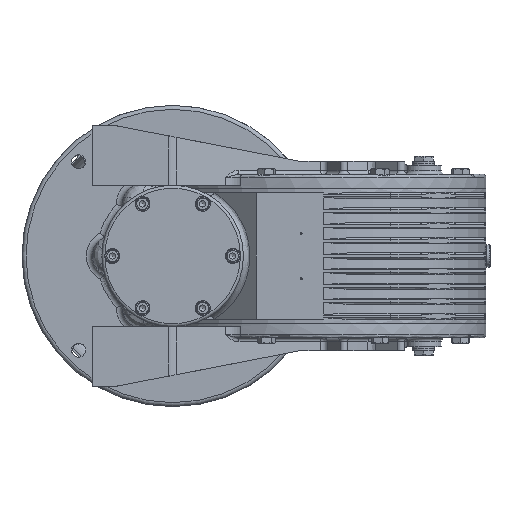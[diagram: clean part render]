
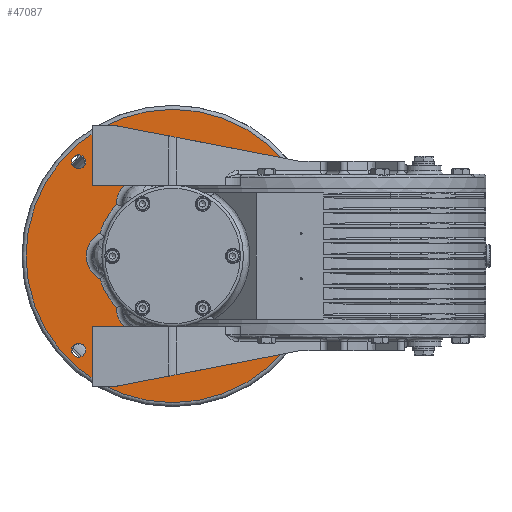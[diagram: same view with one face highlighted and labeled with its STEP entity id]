
A CAD part, left-side view. The second image highlights one B-rep face of the part: STEP entity #47087.
In plain terms, the highlighted planar face has unit normal (-1, 0, 0) as drawn and (1, 0, 0) by its records, which use the part's own axes.
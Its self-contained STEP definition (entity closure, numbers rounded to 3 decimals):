
#46913=CARTESIAN_POINT('',(15.0,146.0,0.));
#46914=VERTEX_POINT('',#46913);
#46915=CARTESIAN_POINT('',(15.0,0.0,0.0));
#46916=DIRECTION('',(-1.0,0.0,0.0));
#46917=DIRECTION('',(0.0,-1.0,0.0));
#46918=AXIS2_PLACEMENT_3D('',#46915,#46916,#46917);
#46919=CIRCLE('',#46918,146.0);
#46920=EDGE_CURVE('',#46914,#46914,#46919,.T.);
#46925=CARTESIAN_POINT('',(15.0,110.0,0.0));
#46926=DIRECTION('',(1.0,0.0,0.0));
#46927=DIRECTION('',(0.0,0.0,-1.0));
#46928=AXIS2_PLACEMENT_3D('',#46925,#46926,#46927);
#46929=PLANE('',#46928);
#46930=ORIENTED_EDGE('',*,*,#46920,.F.);
#46931=EDGE_LOOP('',(#46930));
#46932=FACE_OUTER_BOUND('',#46931,.T.);
#46933=CARTESIAN_POINT('',(15.0,16.506,74.186));
#46934=VERTEX_POINT('',#46933);
#46935=CARTESIAN_POINT('',(15.0,-16.506,74.186));
#46936=VERTEX_POINT('',#46935);
#46937=CARTESIAN_POINT('',(15.0,0.0,0.0));
#46938=DIRECTION('',(1.0,0.0,0.0));
#46939=DIRECTION('',(0.0,0.0,1.0));
#46940=AXIS2_PLACEMENT_3D('',#46937,#46938,#46939);
#46941=CIRCLE('',#46940,76.0);
#46942=EDGE_CURVE('',#46934,#46936,#46941,.T.);
#46943=ORIENTED_EDGE('',*,*,#46942,.F.);
#46944=CARTESIAN_POINT('',(15.0,55.994,51.388));
#46945=VERTEX_POINT('',#46944);
#46946=CARTESIAN_POINT('',(15.0,30.,51.962));
#46947=DIRECTION('',(1.0,0.0,0.0));
#46948=DIRECTION('',(0.0,0.5,0.866));
#46949=AXIS2_PLACEMENT_3D('',#46946,#46947,#46948);
#46950=CIRCLE('',#46949,26.);
#46951=EDGE_CURVE('',#46945,#46934,#46950,.T.);
#46952=ORIENTED_EDGE('',*,*,#46951,.F.);
#46953=CARTESIAN_POINT('',(15.0,72.5,22.798));
#46954=VERTEX_POINT('',#46953);
#46955=CARTESIAN_POINT('',(15.0,0.0,0.0));
#46956=DIRECTION('',(1.0,0.0,0.0));
#46957=DIRECTION('',(0.0,0.866,0.5));
#46958=AXIS2_PLACEMENT_3D('',#46955,#46956,#46957);
#46959=CIRCLE('',#46958,76.0);
#46960=EDGE_CURVE('',#46954,#46945,#46959,.T.);
#46961=ORIENTED_EDGE('',*,*,#46960,.F.);
#46962=CARTESIAN_POINT('',(15.0,72.5,-22.798));
#46963=VERTEX_POINT('',#46962);
#46964=CARTESIAN_POINT('',(15.0,60.0,0.));
#46965=DIRECTION('',(1.0,0.0,0.0));
#46966=DIRECTION('',(0.0,1.0,0.0));
#46967=AXIS2_PLACEMENT_3D('',#46964,#46965,#46966);
#46968=CIRCLE('',#46967,26.);
#46969=EDGE_CURVE('',#46963,#46954,#46968,.T.);
#46970=ORIENTED_EDGE('',*,*,#46969,.F.);
#46971=CARTESIAN_POINT('',(15.0,55.994,-51.388));
#46972=VERTEX_POINT('',#46971);
#46973=CARTESIAN_POINT('',(15.0,0.0,0.0));
#46974=DIRECTION('',(1.0,0.0,0.0));
#46975=DIRECTION('',(0.0,0.866,-0.5));
#46976=AXIS2_PLACEMENT_3D('',#46973,#46974,#46975);
#46977=CIRCLE('',#46976,76.);
#46978=EDGE_CURVE('',#46972,#46963,#46977,.T.);
#46979=ORIENTED_EDGE('',*,*,#46978,.F.);
#46980=CARTESIAN_POINT('',(15.0,16.506,-74.186));
#46981=VERTEX_POINT('',#46980);
#46982=CARTESIAN_POINT('',(15.0,30.,-51.962));
#46983=DIRECTION('',(1.0,0.0,0.0));
#46984=DIRECTION('',(0.0,0.5,-0.866));
#46985=AXIS2_PLACEMENT_3D('',#46982,#46983,#46984);
#46986=CIRCLE('',#46985,26.);
#46987=EDGE_CURVE('',#46981,#46972,#46986,.T.);
#46988=ORIENTED_EDGE('',*,*,#46987,.F.);
#46989=CARTESIAN_POINT('',(15.0,-16.506,-74.186));
#46990=VERTEX_POINT('',#46989);
#46991=CARTESIAN_POINT('',(15.0,0.0,0.0));
#46992=DIRECTION('',(1.0,0.0,0.0));
#46993=DIRECTION('',(0.0,0.0,-1.0));
#46994=AXIS2_PLACEMENT_3D('',#46991,#46992,#46993);
#46995=CIRCLE('',#46994,76.0);
#46996=EDGE_CURVE('',#46990,#46981,#46995,.T.);
#46997=ORIENTED_EDGE('',*,*,#46996,.F.);
#46998=CARTESIAN_POINT('',(15.0,-55.994,-51.388));
#46999=VERTEX_POINT('',#46998);
#47000=CARTESIAN_POINT('',(15.0,-30.,-51.962));
#47001=DIRECTION('',(1.0,0.0,0.0));
#47002=DIRECTION('',(0.0,-0.5,-0.866));
#47003=AXIS2_PLACEMENT_3D('',#47000,#47001,#47002);
#47004=CIRCLE('',#47003,26.0);
#47005=EDGE_CURVE('',#46999,#46990,#47004,.T.);
#47006=ORIENTED_EDGE('',*,*,#47005,.F.);
#47007=CARTESIAN_POINT('',(15.0,-72.5,-22.798));
#47008=VERTEX_POINT('',#47007);
#47009=CARTESIAN_POINT('',(15.0,0.0,0.0));
#47010=DIRECTION('',(1.0,0.0,0.0));
#47011=DIRECTION('',(0.0,-0.866,-0.5));
#47012=AXIS2_PLACEMENT_3D('',#47009,#47010,#47011);
#47013=CIRCLE('',#47012,76.);
#47014=EDGE_CURVE('',#47008,#46999,#47013,.T.);
#47015=ORIENTED_EDGE('',*,*,#47014,.F.);
#47016=CARTESIAN_POINT('',(15.0,-72.5,22.798));
#47017=VERTEX_POINT('',#47016);
#47018=CARTESIAN_POINT('',(15.0,-60.0,0.));
#47019=DIRECTION('',(1.0,0.0,0.0));
#47020=DIRECTION('',(0.0,-1.0,0.0));
#47021=AXIS2_PLACEMENT_3D('',#47018,#47019,#47020);
#47022=CIRCLE('',#47021,26.0);
#47023=EDGE_CURVE('',#47017,#47008,#47022,.T.);
#47024=ORIENTED_EDGE('',*,*,#47023,.F.);
#47025=CARTESIAN_POINT('',(15.0,-55.994,51.388));
#47026=VERTEX_POINT('',#47025);
#47027=CARTESIAN_POINT('',(15.0,0.0,0.0));
#47028=DIRECTION('',(1.0,0.0,0.0));
#47029=DIRECTION('',(0.0,-0.866,0.5));
#47030=AXIS2_PLACEMENT_3D('',#47027,#47028,#47029);
#47031=CIRCLE('',#47030,76.);
#47032=EDGE_CURVE('',#47026,#47017,#47031,.T.);
#47033=ORIENTED_EDGE('',*,*,#47032,.F.);
#47034=CARTESIAN_POINT('',(15.0,-30.,51.962));
#47035=DIRECTION('',(1.0,0.0,0.0));
#47036=DIRECTION('',(0.0,-0.5,0.866));
#47037=AXIS2_PLACEMENT_3D('',#47034,#47035,#47036);
#47038=CIRCLE('',#47037,26.);
#47039=EDGE_CURVE('',#46936,#47026,#47038,.T.);
#47040=ORIENTED_EDGE('',*,*,#47039,.F.);
#47041=EDGE_LOOP('',(#46943,#46952,#46961,#46970,#46979,#46988,#46997,#47006,#47015,#47024,#47033,#47040));
#47042=FACE_BOUND('',#47041,.T.);
#47043=CARTESIAN_POINT('',(15.0,93.692,86.692));
#47044=VERTEX_POINT('',#47043);
#47045=CARTESIAN_POINT('',(15.0,93.692,93.692));
#47046=DIRECTION('',(-1.0,0.0,0.0));
#47047=DIRECTION('',(0.0,0.0,1.0));
#47048=AXIS2_PLACEMENT_3D('',#47045,#47046,#47047);
#47049=CIRCLE('',#47048,7.);
#47050=EDGE_CURVE('',#47044,#47044,#47049,.T.);
#47051=ORIENTED_EDGE('',*,*,#47050,.T.);
#47052=EDGE_LOOP('',(#47051));
#47053=FACE_BOUND('',#47052,.T.);
#47054=CARTESIAN_POINT('',(15.0,-86.692,93.692));
#47055=VERTEX_POINT('',#47054);
#47056=CARTESIAN_POINT('',(15.0,-93.692,93.692));
#47057=DIRECTION('',(-1.0,0.0,0.0));
#47058=DIRECTION('',(0.0,-1.0,0.0));
#47059=AXIS2_PLACEMENT_3D('',#47056,#47057,#47058);
#47060=CIRCLE('',#47059,7.);
#47061=EDGE_CURVE('',#47055,#47055,#47060,.T.);
#47062=ORIENTED_EDGE('',*,*,#47061,.T.);
#47063=EDGE_LOOP('',(#47062));
#47064=FACE_BOUND('',#47063,.T.);
#47065=CARTESIAN_POINT('',(15.0,-93.692,-86.692));
#47066=VERTEX_POINT('',#47065);
#47067=CARTESIAN_POINT('',(15.0,-93.692,-93.692));
#47068=DIRECTION('',(-1.0,0.0,0.0));
#47069=DIRECTION('',(0.0,0.0,-1.0));
#47070=AXIS2_PLACEMENT_3D('',#47067,#47068,#47069);
#47071=CIRCLE('',#47070,7.);
#47072=EDGE_CURVE('',#47066,#47066,#47071,.T.);
#47073=ORIENTED_EDGE('',*,*,#47072,.T.);
#47074=EDGE_LOOP('',(#47073));
#47075=FACE_BOUND('',#47074,.T.);
#47076=CARTESIAN_POINT('',(15.0,86.692,-93.692));
#47077=VERTEX_POINT('',#47076);
#47078=CARTESIAN_POINT('',(15.0,93.692,-93.692));
#47079=DIRECTION('',(-1.0,0.0,0.0));
#47080=DIRECTION('',(0.0,1.0,0.0));
#47081=AXIS2_PLACEMENT_3D('',#47078,#47079,#47080);
#47082=CIRCLE('',#47081,7.);
#47083=EDGE_CURVE('',#47077,#47077,#47082,.T.);
#47084=ORIENTED_EDGE('',*,*,#47083,.T.);
#47085=EDGE_LOOP('',(#47084));
#47086=FACE_BOUND('',#47085,.T.);
#47087=ADVANCED_FACE('',(#46932,#47042,#47053,#47064,#47075,#47086),#46929,.T.);
